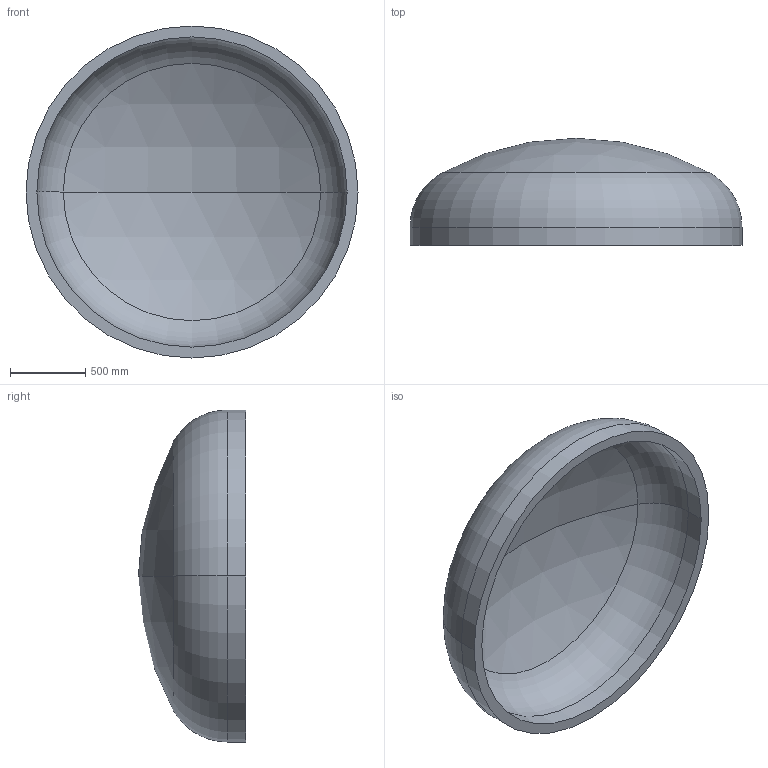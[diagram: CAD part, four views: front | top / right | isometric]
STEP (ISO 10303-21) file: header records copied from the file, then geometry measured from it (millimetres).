
FILE_DESCRIPTION (( 'STEP AP203' ), '1' );
FILE_NAME ('DIN 28013 Korbbogenform_-_Boden DIN 28013 - 2200 x 120 - I - s=72.step', '2016-07-01T14:46:21', ( '' ), ( '' ), 'SwSTEP 2.0', 'SolidWorks 2013', '' );
FILE_SCHEMA (( 'CONFIG_CONTROL_DESIGN' ));
Length unit declared in the file: millimetre
Products named in the file (1): DIN 28013 Korbbogenform_-_Boden DIN 28013 - 2200 x 120 - I - s=72
Bounding box: 2200 x 709.8 x 2200 mm (x, y, z)
Volume: 421253812.2 mm3; surface area: 12193690.9 mm2
Topology: 1 solids, 1 shells, 13 faces, 24 edges, 14 vertices
Faces by surface type: torus 4, cylinder 4, sphere 4, plane 1
Entity records: 407 total; most frequent: DIRECTION 72, CARTESIAN_POINT 52, ORIENTED_EDGE 48, AXIS2_PLACEMENT_3D 34, EDGE_CURVE 24, CIRCLE 20, EDGE_LOOP 14, VERTEX_POINT 14
